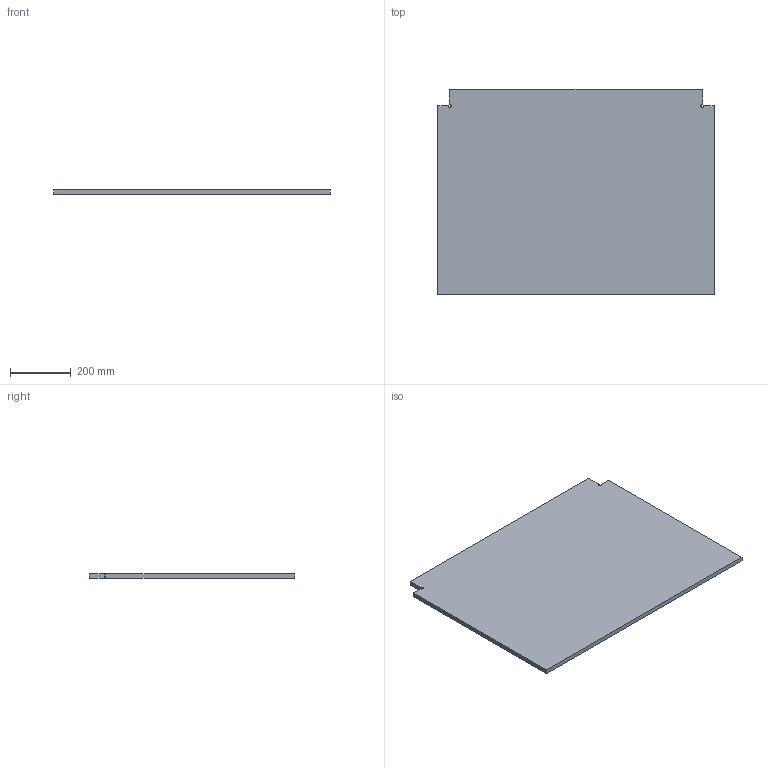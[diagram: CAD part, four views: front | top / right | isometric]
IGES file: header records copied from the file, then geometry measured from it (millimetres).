
Global section: file name: traseira.igs; native system: NX V2312; preprocessor: SIEMENS PLM Software NX2312.5001; date: 20240809.191021; units: millimetre
Bounding box: 907 x 674 x 15 mm (x, y, z)
Surface area: 1261922 mm2 (no closed solid volume)
Topology: 0 solids, 0 shells, 12 faces, 88 edges, 88 vertices
Faces by surface type: bspline 12
